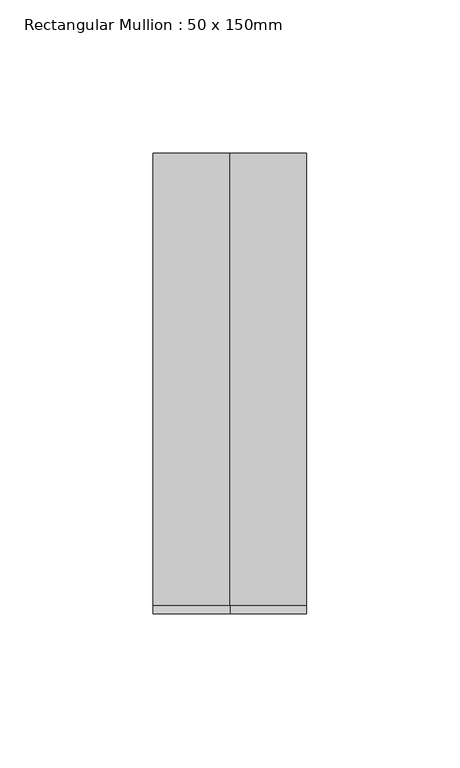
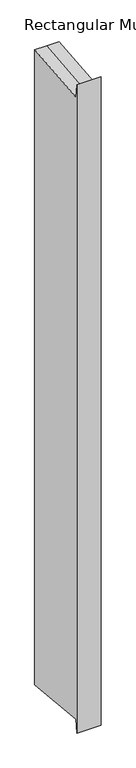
"""IFC4 building model written with IfcOpenShell, lengths in millimetres: member geometry, Rectangular Mullion : 50 x 150mm."""

from ifc_helpers import new_model, si_unit, origin, place, context, project, spatial, faceted_brep, source, transform, mapped, element, save


def rectangular_mullion_50_x_150mm_15facdc1(model_context):
    return source(origin(), model_context, "Body", "Brep", [
        faceted_brep([(-25.0, 75.0, 7.003801), (0.0, 75.0, 7.003801), (25.0, 75.0, 7.003801), (25.0, 75.0, -1373.1006994), (-25.0, 75.0, -1373.1006994), (-25.0, -75.0, 21.4499324), (-25.0, -72.3032509, -6.9724867), (-25.0, -72.3032509, -1359.1244117), (-25.0, -75.0, -1387.5468307), (25.0, -75.0, 21.4499324), (0.0, -75.0, 21.4499324), (25.0, -75.0, -1387.5468307), (25.0, -72.3032509, -6.9724867), (25.0, -72.3032509, -1359.1244117), (0.0, -72.3032509, -6.9724867)], [[[0, 1, 2, 3, 4]], [[5, 6, 0, 4, 7, 8]], [[9, 10, 5, 8, 11]], [[2, 12, 9, 11, 13, 3]], [[2, 1, 14, 12]], [[1, 0, 6, 14]], [[6, 5, 10, 14]], [[10, 9, 12, 14]], [[3, 13, 7, 4]], [[13, 11, 8, 7]]]),
    ])


if __name__ == "__main__":
    model = new_model("IFC4")
    model_context = context("Model", 3, world=origin())
    ifc_project = project(units=[si_unit("LENGTHUNIT", "METRE", prefix="MILLI")], contexts=[model_context])
    site = spatial("IfcSite", under=ifc_project)
    building = spatial("IfcBuilding", under=site)
    placement = place(None, origin())
    rectangular_mullion_50_x_150mm_shape = rectangular_mullion_50_x_150mm_15facdc1(model_context)
    element("IfcMember", 1, ObjectType="Rectangular Mullion : 50 x 150mm", at=placement, inside=building, context=model_context, shape_type="MappedRepresentation", body=[
        mapped(rectangular_mullion_50_x_150mm_shape, transform((0.0, 0.0, 0.0), x_axis=(1.0, 0.0, 0.0), y_axis=(0.0, 1.0, 0.0), z_axis=(0.0, 0.0, 1.0))),
    ])
    save(model, "model.ifc")
